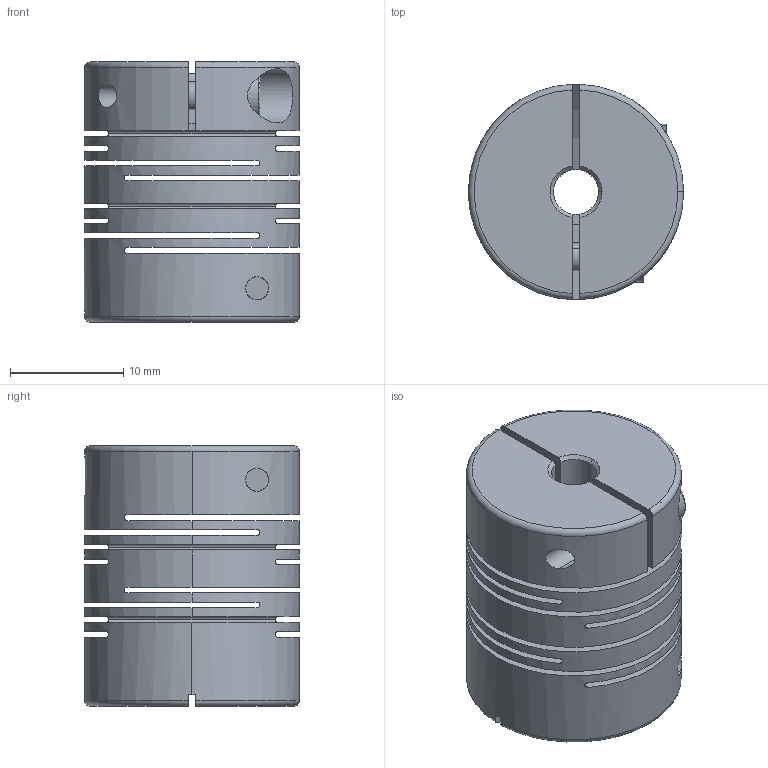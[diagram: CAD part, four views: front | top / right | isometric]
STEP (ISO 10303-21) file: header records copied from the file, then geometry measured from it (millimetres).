
FILE_DESCRIPTION (( 'STEP AP214' ), '1' );
FILE_NAME ('ERB-A-19C-04 04.STEP', '2019-06-18T00:37:12', ( '' ), ( '' ), 'SwSTEP 2.0', 'SolidWorks 2018', '' );
FILE_SCHEMA (( 'AUTOMOTIVE_DESIGN' ));
Length unit declared in the file: millimetre
Products named in the file (1): ERB-A-19C-04 04
Bounding box: 19 x 19 x 23 mm (x, y, z)
Volume: 5039.3 mm3; surface area: 6254.3 mm2
Topology: 1 solids, 1 shells, 159 faces, 419 edges, 266 vertices
Faces by surface type: cylinder 69, plane 60, torus 17, cone 13
Entity records: 5992 total; most frequent: CARTESIAN_POINT 1286, DIRECTION 854, ORIENTED_EDGE 830, EDGE_CURVE 415, AXIS2_PLACEMENT_3D 344, VERTEX_POINT 266, EDGE_LOOP 189, CIRCLE 184
